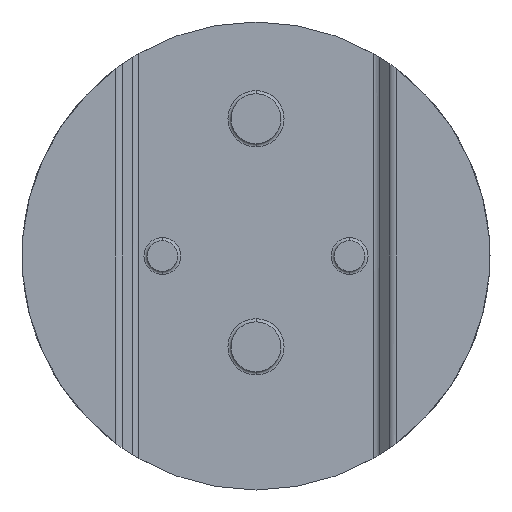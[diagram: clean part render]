
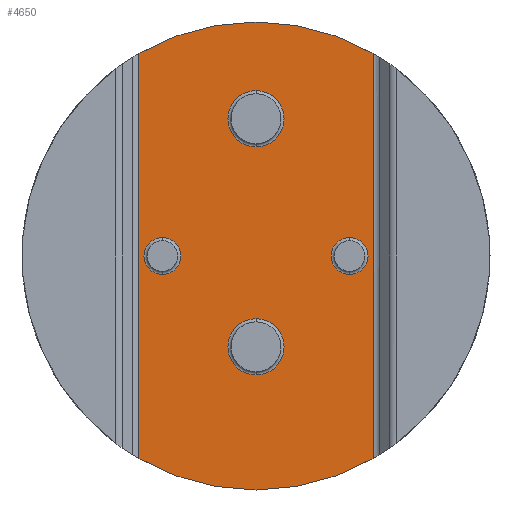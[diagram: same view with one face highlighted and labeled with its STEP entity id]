
A CAD part, front view. The second image highlights one B-rep face of the part: STEP entity #4650.
In plain terms, the highlighted planar face has unit normal (0, -1, 0).
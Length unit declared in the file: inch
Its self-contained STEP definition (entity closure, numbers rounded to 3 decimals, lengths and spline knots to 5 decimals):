
#59 = DIRECTION ( 'NONE',  ( 0., 0., 1. ) ) ;
#136 = CARTESIAN_POINT ( 'NONE',  ( 0.3, -0.201, -0.059 ) ) ;
#212 = DIRECTION ( 'NONE',  ( 0., 0., 1. ) ) ;
#445 = EDGE_LOOP ( 'NONE', ( #7672, #8266, #5792, #7761, #3288, #5652 ) ) ;
#520 = DIRECTION ( 'NONE',  ( 0., 1., 0. ) ) ;
#525 = FACE_BOUND ( 'NONE', #8937, .T. ) ;
#540 = EDGE_CURVE ( 'NONE', #7020, #988, #1460, .T. ) ;
#618 = DIRECTION ( 'NONE',  ( 0., 1., 0. ) ) ;
#638 = DIRECTION ( 'NONE',  ( 0., 0., 1. ) ) ;
#739 = AXIS2_PLACEMENT_3D ( 'NONE', #5394, #618, #2575 ) ;
#740 = AXIS2_PLACEMENT_3D ( 'NONE', #4340, #7250, #3732 ) ;
#745 = EDGE_CURVE ( 'NONE', #2598, #5050, #5439, .T. ) ;
#808 = ORIENTED_EDGE ( 'NONE', *, *, #1778, .T. ) ;
#844 = VERTEX_POINT ( 'NONE', #6249 ) ;
#988 = VERTEX_POINT ( 'NONE', #6804 ) ;
#1028 = VECTOR ( 'NONE', #3030, 39.37008 ) ;
#1389 = CARTESIAN_POINT ( 'NONE',  ( 0., -0.201, 0.44 ) ) ;
#1423 = EDGE_CURVE ( 'NONE', #4656, #4523, #4893, .T. ) ;
#1460 = CIRCLE ( 'NONE', #4698, 0.75 ) ;
#1485 = AXIS2_PLACEMENT_3D ( 'NONE', #2168, #7125, #3696 ) ;
#1535 = EDGE_CURVE ( 'NONE', #4611, #4756, #6622, .T. ) ;
#1778 = EDGE_CURVE ( 'NONE', #3465, #2762, #3674, .T. ) ;
#1897 = DIRECTION ( 'NONE',  ( 0., 0., 1. ) ) ;
#1963 = CARTESIAN_POINT ( 'NONE',  ( 0., -0.201, 0. ) ) ;
#2123 = EDGE_LOOP ( 'NONE', ( #4295, #6982 ) ) ;
#2168 = CARTESIAN_POINT ( 'NONE',  ( 0., -0.201, -0.291 ) ) ;
#2192 = EDGE_CURVE ( 'NONE', #4599, #5947, #8670, .T. ) ;
#2203 = CIRCLE ( 'NONE', #5603, 0.75 ) ;
#2206 = EDGE_CURVE ( 'NONE', #4756, #4611, #7805, .T. ) ;
#2248 = LINE ( 'NONE', #4640, #1028 ) ;
#2488 = DIRECTION ( 'NONE',  ( 0., 0., 1. ) ) ;
#2534 = FACE_BOUND ( 'NONE', #8333, .T. ) ;
#2575 = DIRECTION ( 'NONE',  ( 0., 0., 1. ) ) ;
#2598 = VERTEX_POINT ( 'NONE', #3517 ) ;
#2635 = AXIS2_PLACEMENT_3D ( 'NONE', #1389, #7098, #6485 ) ;
#2762 = VERTEX_POINT ( 'NONE', #136 ) ;
#2829 = CARTESIAN_POINT ( 'NONE',  ( 0., -0.201, -0.201 ) ) ;
#3030 = DIRECTION ( 'NONE',  ( 0., 0., -1. ) ) ;
#3102 = EDGE_CURVE ( 'NONE', #4656, #7020, #8063, .T. ) ;
#3190 = ORIENTED_EDGE ( 'NONE', *, *, #2192, .T. ) ;
#3218 = CARTESIAN_POINT ( 'NONE',  ( 0., -0.201, 0.75 ) ) ;
#3288 = ORIENTED_EDGE ( 'NONE', *, *, #4869, .T. ) ;
#3296 = DIRECTION ( 'NONE',  ( 0., 0., 1. ) ) ;
#3465 = VERTEX_POINT ( 'NONE', #7397 ) ;
#3504 = DIRECTION ( 'NONE',  ( 0., 0., 1. ) ) ;
#3517 = CARTESIAN_POINT ( 'NONE',  ( 0., -0.201, -0.381 ) ) ;
#3674 = CIRCLE ( 'NONE', #8519, 0.059 ) ;
#3696 = DIRECTION ( 'NONE',  ( 0., 0., 1. ) ) ;
#3732 = DIRECTION ( 'NONE',  ( 0., 0., 1. ) ) ;
#3899 = CARTESIAN_POINT ( 'NONE',  ( 0., -0.201, 0. ) ) ;
#3953 = ORIENTED_EDGE ( 'NONE', *, *, #6549, .T. ) ;
#4109 = CARTESIAN_POINT ( 'NONE',  ( 0.37507, -0.201, -0.64948 ) ) ;
#4168 = CARTESIAN_POINT ( 'NONE',  ( 0., -0.201, 0.35 ) ) ;
#4237 = CARTESIAN_POINT ( 'NONE',  ( 0.3, -0.201, 0. ) ) ;
#4285 = CIRCLE ( 'NONE', #6794, 0.059 ) ;
#4295 = ORIENTED_EDGE ( 'NONE', *, *, #5641, .T. ) ;
#4340 = CARTESIAN_POINT ( 'NONE',  ( 0., -0.201, 0.44 ) ) ;
#4523 = VERTEX_POINT ( 'NONE', #7845 ) ;
#4599 = VERTEX_POINT ( 'NONE', #8564 ) ;
#4610 = FACE_OUTER_BOUND ( 'NONE', #445, .T. ) ;
#4611 = VERTEX_POINT ( 'NONE', #4168 ) ;
#4640 = CARTESIAN_POINT ( 'NONE',  ( -0.37507, -0.201, -0.64214 ) ) ;
#4650 = ADVANCED_FACE ( 'NONE', ( #2534, #8203, #4800, #525, #4610 ), #5502, .F. ) ;
#4656 = VERTEX_POINT ( 'NONE', #4109 ) ;
#4658 = DIRECTION ( 'NONE',  ( 0., 1., 0. ) ) ;
#4691 = AXIS2_PLACEMENT_3D ( 'NONE', #1963, #7595, #638 ) ;
#4698 = AXIS2_PLACEMENT_3D ( 'NONE', #7633, #5413, #3296 ) ;
#4711 = AXIS2_PLACEMENT_3D ( 'NONE', #6271, #9059, #5565 ) ;
#4756 = VERTEX_POINT ( 'NONE', #7705 ) ;
#4800 = FACE_BOUND ( 'NONE', #2123, .T. ) ;
#4869 = EDGE_CURVE ( 'NONE', #844, #988, #2248, .T. ) ;
#4893 = LINE ( 'NONE', #7708, #8375 ) ;
#5050 = VERTEX_POINT ( 'NONE', #2829 ) ;
#5121 = CARTESIAN_POINT ( 'NONE',  ( 0., -0.201, 0. ) ) ;
#5394 = CARTESIAN_POINT ( 'NONE',  ( -0.3875, -0.201, -0.75 ) ) ;
#5413 = DIRECTION ( 'NONE',  ( 0., 1., 0. ) ) ;
#5433 = AXIS2_PLACEMENT_3D ( 'NONE', #7479, #4658, #1897 ) ;
#5439 = CIRCLE ( 'NONE', #5433, 0.09 ) ;
#5502 = PLANE ( 'NONE',  #739 ) ;
#5538 = CARTESIAN_POINT ( 'NONE',  ( 0.3, -0.201, 0. ) ) ;
#5565 = DIRECTION ( 'NONE',  ( 0., 0., 1. ) ) ;
#5603 = AXIS2_PLACEMENT_3D ( 'NONE', #5121, #8611, #212 ) ;
#5610 = EDGE_CURVE ( 'NONE', #8750, #4523, #2203, .T. ) ;
#5641 = EDGE_CURVE ( 'NONE', #5050, #2598, #6484, .T. ) ;
#5652 = ORIENTED_EDGE ( 'NONE', *, *, #540, .F. ) ;
#5705 = CARTESIAN_POINT ( 'NONE',  ( -0.3, -0.201, 0.059 ) ) ;
#5770 = ORIENTED_EDGE ( 'NONE', *, *, #6978, .T. ) ;
#5792 = ORIENTED_EDGE ( 'NONE', *, *, #5610, .F. ) ;
#5923 = CIRCLE ( 'NONE', #7694, 0.75 ) ;
#5947 = VERTEX_POINT ( 'NONE', #5705 ) ;
#6217 = AXIS2_PLACEMENT_3D ( 'NONE', #4237, #7106, #59 ) ;
#6248 = ORIENTED_EDGE ( 'NONE', *, *, #2206, .T. ) ;
#6249 = CARTESIAN_POINT ( 'NONE',  ( -0.37507, -0.201, 0.64948 ) ) ;
#6271 = CARTESIAN_POINT ( 'NONE',  ( -0.3, -0.201, 0. ) ) ;
#6281 = DIRECTION ( 'NONE',  ( 0., 0., 1. ) ) ;
#6484 = CIRCLE ( 'NONE', #1485, 0.09 ) ;
#6485 = DIRECTION ( 'NONE',  ( 0., 0., 1. ) ) ;
#6549 = EDGE_CURVE ( 'NONE', #5947, #4599, #4285, .T. ) ;
#6622 = CIRCLE ( 'NONE', #740, 0.09 ) ;
#6794 = AXIS2_PLACEMENT_3D ( 'NONE', #8114, #7341, #2488 ) ;
#6801 = CIRCLE ( 'NONE', #6217, 0.059 ) ;
#6804 = CARTESIAN_POINT ( 'NONE',  ( -0.37507, -0.201, -0.64948 ) ) ;
#6978 = EDGE_CURVE ( 'NONE', #2762, #3465, #6801, .T. ) ;
#6982 = ORIENTED_EDGE ( 'NONE', *, *, #745, .T. ) ;
#7020 = VERTEX_POINT ( 'NONE', #7908 ) ;
#7098 = DIRECTION ( 'NONE',  ( 0., 1., 0. ) ) ;
#7106 = DIRECTION ( 'NONE',  ( 0., 1., 0. ) ) ;
#7125 = DIRECTION ( 'NONE',  ( 0., 1., 0. ) ) ;
#7250 = DIRECTION ( 'NONE',  ( 0., 1., 0. ) ) ;
#7341 = DIRECTION ( 'NONE',  ( 0., 1., 0. ) ) ;
#7397 = CARTESIAN_POINT ( 'NONE',  ( 0.3, -0.201, 0.059 ) ) ;
#7479 = CARTESIAN_POINT ( 'NONE',  ( 0., -0.201, -0.291 ) ) ;
#7595 = DIRECTION ( 'NONE',  ( 0., 1., 0. ) ) ;
#7633 = CARTESIAN_POINT ( 'NONE',  ( 0., -0.201, 0. ) ) ;
#7672 = ORIENTED_EDGE ( 'NONE', *, *, #3102, .F. ) ;
#7694 = AXIS2_PLACEMENT_3D ( 'NONE', #3899, #8279, #8826 ) ;
#7705 = CARTESIAN_POINT ( 'NONE',  ( 0., -0.201, 0.53 ) ) ;
#7708 = CARTESIAN_POINT ( 'NONE',  ( 0.37507, -0.201, 0.64214 ) ) ;
#7761 = ORIENTED_EDGE ( 'NONE', *, *, #9028, .F. ) ;
#7805 = CIRCLE ( 'NONE', #2635, 0.09 ) ;
#7845 = CARTESIAN_POINT ( 'NONE',  ( 0.37507, -0.201, 0.64948 ) ) ;
#7908 = CARTESIAN_POINT ( 'NONE',  ( 0., -0.201, -0.75 ) ) ;
#8063 = CIRCLE ( 'NONE', #4691, 0.75 ) ;
#8078 = EDGE_LOOP ( 'NONE', ( #3953, #3190 ) ) ;
#8114 = CARTESIAN_POINT ( 'NONE',  ( -0.3, -0.201, 0. ) ) ;
#8203 = FACE_BOUND ( 'NONE', #8078, .T. ) ;
#8266 = ORIENTED_EDGE ( 'NONE', *, *, #1423, .T. ) ;
#8279 = DIRECTION ( 'NONE',  ( 0., 1., 0. ) ) ;
#8333 = EDGE_LOOP ( 'NONE', ( #808, #5770 ) ) ;
#8375 = VECTOR ( 'NONE', #3504, 39.37008 ) ;
#8472 = ORIENTED_EDGE ( 'NONE', *, *, #1535, .T. ) ;
#8519 = AXIS2_PLACEMENT_3D ( 'NONE', #5538, #520, #6281 ) ;
#8564 = CARTESIAN_POINT ( 'NONE',  ( -0.3, -0.201, -0.059 ) ) ;
#8611 = DIRECTION ( 'NONE',  ( 0., 1., 0. ) ) ;
#8670 = CIRCLE ( 'NONE', #4711, 0.059 ) ;
#8750 = VERTEX_POINT ( 'NONE', #3218 ) ;
#8826 = DIRECTION ( 'NONE',  ( 0., 0., 1. ) ) ;
#8937 = EDGE_LOOP ( 'NONE', ( #6248, #8472 ) ) ;
#9028 = EDGE_CURVE ( 'NONE', #844, #8750, #5923, .T. ) ;
#9059 = DIRECTION ( 'NONE',  ( 0., 1., 0. ) ) ;
